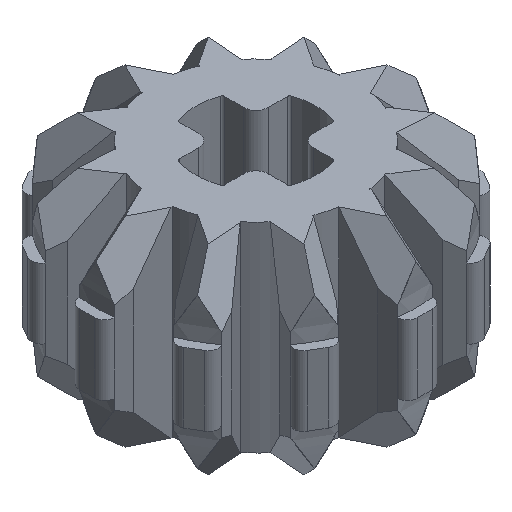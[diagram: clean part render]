
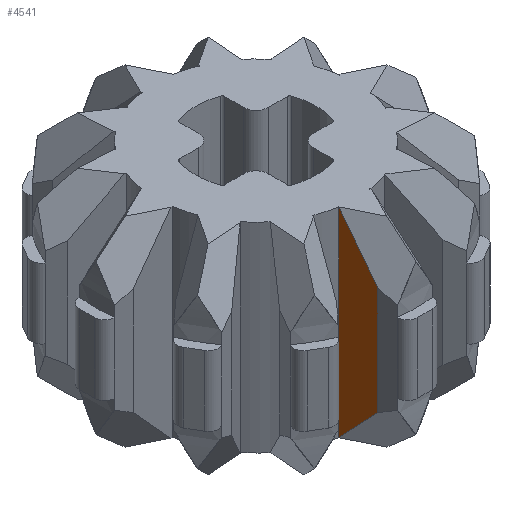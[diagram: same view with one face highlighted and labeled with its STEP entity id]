
A CAD part, isometric view. The second image highlights one B-rep face of the part: STEP entity #4541.
In plain terms, the highlighted planar face has unit normal (-0.994, 0.107, 0).
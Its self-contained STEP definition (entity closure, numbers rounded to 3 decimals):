
#245=PLANE('',#4979);
#1197=ORIENTED_EDGE('',*,*,#2235,.T.);
#1198=ORIENTED_EDGE('',*,*,#2236,.T.);
#1199=ORIENTED_EDGE('',*,*,#2237,.F.);
#1200=ORIENTED_EDGE('',*,*,#2044,.T.);
#2044=EDGE_CURVE('',#2627,#2626,#3001,.T.);
#2235=EDGE_CURVE('',#2626,#2744,#3156,.T.);
#2236=EDGE_CURVE('',#2744,#2745,#3157,.T.);
#2237=EDGE_CURVE('',#2627,#2745,#3158,.T.);
#2626=VERTEX_POINT('',#7111);
#2627=VERTEX_POINT('',#7113);
#2744=VERTEX_POINT('',#7494);
#2745=VERTEX_POINT('',#7496);
#3001=LINE('',#7112,#3449);
#3156=LINE('',#7493,#3604);
#3157=LINE('',#7495,#3605);
#3158=LINE('',#7497,#3606);
#3449=VECTOR('',#5732,1000.);
#3604=VECTOR('',#6105,1000.);
#3605=VECTOR('',#6106,1000.);
#3606=VECTOR('',#6107,1000.);
#3929=EDGE_LOOP('',(#1197,#1198,#1199,#1200));
#4197=FACE_BOUND('',#3929,.T.);
#4541=ADVANCED_FACE('',(#4197),#245,.F.);
#4979=AXIS2_PLACEMENT_3D('',#7492,#6103,#6104);
#5732=DIRECTION('',(0.074,0.688,0.722));
#6103=DIRECTION('',(0.994,-0.107,0.));
#6104=DIRECTION('',(0.107,0.994,0.));
#6105=DIRECTION('',(0.,0.,-1.));
#6106=DIRECTION('',(-0.074,-0.688,0.722));
#6107=DIRECTION('',(0.,0.,-1.));
#7111=CARTESIAN_POINT('',(-0.643,-3.948,4.));
#7112=CARTESIAN_POINT('',(-0.643,-3.948,4.));
#7113=CARTESIAN_POINT('',(-0.831,-5.7,2.163));
#7492=CARTESIAN_POINT('',(-0.643,-3.948,4.));
#7493=CARTESIAN_POINT('',(-0.643,-3.948,4.));
#7494=CARTESIAN_POINT('',(-0.643,-3.948,-4.));
#7495=CARTESIAN_POINT('',(-0.766,-5.092,-2.8));
#7496=CARTESIAN_POINT('',(-0.831,-5.7,-2.163));
#7497=CARTESIAN_POINT('',(-0.831,-5.7,31.4));
